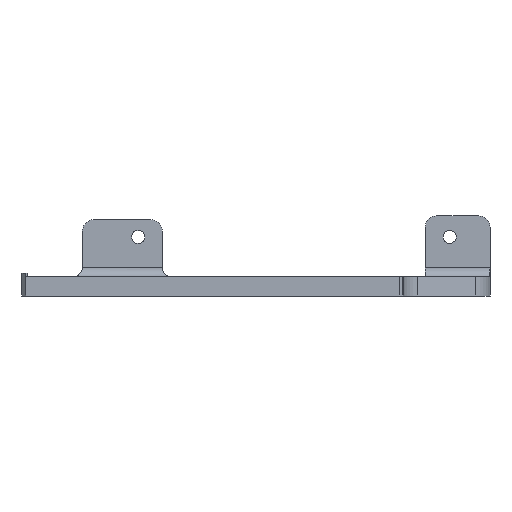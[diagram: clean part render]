
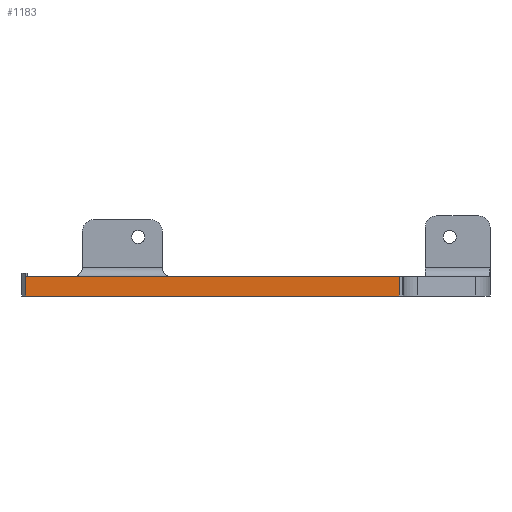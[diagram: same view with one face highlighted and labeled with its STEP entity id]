
A CAD part, left-side view. The second image highlights one B-rep face of the part: STEP entity #1183.
In plain terms, the highlighted planar face has unit normal (-1, 0, 0).
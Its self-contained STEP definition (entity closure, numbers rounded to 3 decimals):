
#116=FACE_OUTER_BOUND('',#188,.T.);
#188=EDGE_LOOP('',(#834,#835,#836,#837));
#261=LINE('',#1724,#383);
#269=LINE('',#1740,#391);
#293=LINE('',#1800,#415);
#294=LINE('',#1801,#416);
#383=VECTOR('',#1377,10.);
#391=VECTOR('',#1389,10.);
#415=VECTOR('',#1427,10.);
#416=VECTOR('',#1428,10.);
#505=VERTEX_POINT('',#1721);
#506=VERTEX_POINT('',#1723);
#512=VERTEX_POINT('',#1739);
#541=VERTEX_POINT('',#1799);
#617=EDGE_CURVE('',#505,#506,#261,.T.);
#625=EDGE_CURVE('',#506,#512,#269,.T.);
#655=EDGE_CURVE('',#541,#505,#293,.T.);
#656=EDGE_CURVE('',#512,#541,#294,.T.);
#834=ORIENTED_EDGE('',*,*,#617,.F.);
#835=ORIENTED_EDGE('',*,*,#655,.F.);
#836=ORIENTED_EDGE('',*,*,#656,.F.);
#837=ORIENTED_EDGE('',*,*,#625,.F.);
#1147=PLANE('',#1270);
#1183=ADVANCED_FACE('',(#116),#1147,.T.);
#1270=AXIS2_PLACEMENT_3D('',#1798,#1425,#1426);
#1377=DIRECTION('',(0.,0.,1.));
#1389=DIRECTION('',(0.,-1.,0.));
#1425=DIRECTION('center_axis',(-1.,0.,
0.));
#1426=DIRECTION('ref_axis',(0.,1.,0.));
#1427=DIRECTION('',(0.,1.,0.));
#1428=DIRECTION('',(0.,0.,-1.));
#1721=CARTESIAN_POINT('',(-133.417,106.837,72.994));
#1723=CARTESIAN_POINT('',(-133.417,106.837,77.994));
#1724=CARTESIAN_POINT('',(-133.417,106.837,77.994));
#1739=CARTESIAN_POINT('',(-133.438,8.837,77.994));
#1740=CARTESIAN_POINT('',(-133.417,107.837,77.994));
#1798=CARTESIAN_POINT('Origin',(-133.438,7.837,77.994));
#1799=CARTESIAN_POINT('',(-133.438,8.837,72.994));
#1800=CARTESIAN_POINT('',(-133.417,107.837,72.994));
#1801=CARTESIAN_POINT('',(-133.438,8.837,77.994));
